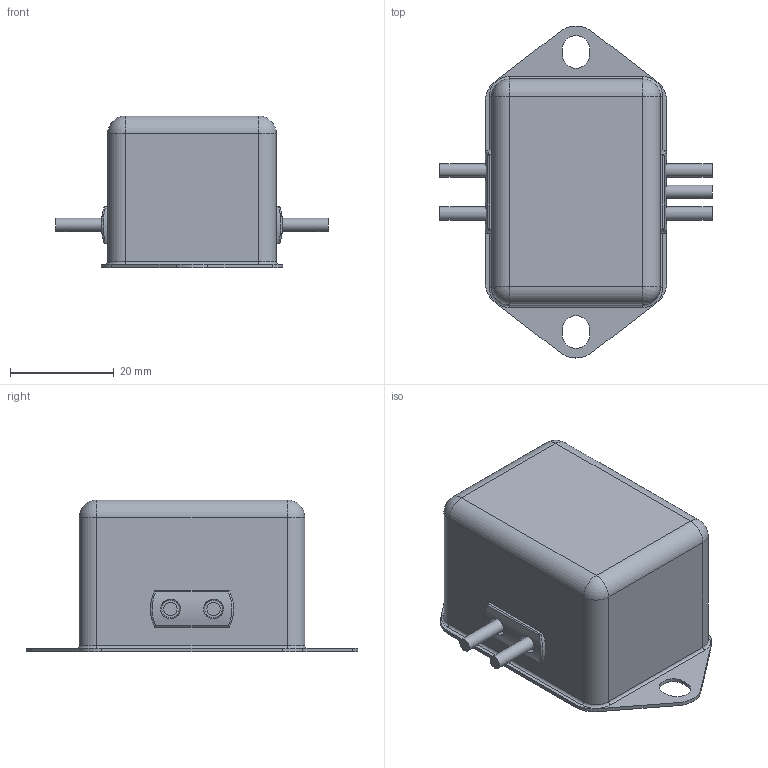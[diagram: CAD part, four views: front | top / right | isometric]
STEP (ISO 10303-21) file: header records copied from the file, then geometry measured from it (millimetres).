
FILE_DESCRIPTION((''),'2;1');
FILE_NAME('P:\Construction\Filter_Marketing\FN\FN2020\FN2020-3-07\FN2020-3-07.stp','2015-09-18T10:59:35',('erika.jenzer'),(''),'Autodesk Inventor 2013','Autodesk Inventor 2013','');
FILE_SCHEMA(('AUTOMOTIVE_DESIGN { 1 0 10303 214 1 1 1 1 }'));
Length unit declared in the file: millimetre
Products named in the file (1): FN2020-3-07
Bounding box: 52.5 x 64 x 29.3 mm (x, y, z)
Volume: 41485.9 mm3; surface area: 8188.5 mm2
Topology: 1 solids, 1 shells, 85 faces, 195 edges, 125 vertices
Faces by surface type: cylinder 37, plane 31, cone 5, bspline 4, torus 4, sphere 4
Full cylindrical faces by diameter (mm): 2.55 x5
Entity records: 2794 total; most frequent: CARTESIAN_POINT 843, DIRECTION 382, ORIENTED_EDGE 370, EDGE_CURVE 185, AXIS2_PLACEMENT_3D 149, VERTEX_POINT 125, EDGE_LOOP 112, FACE_OUTER_BOUND 85
